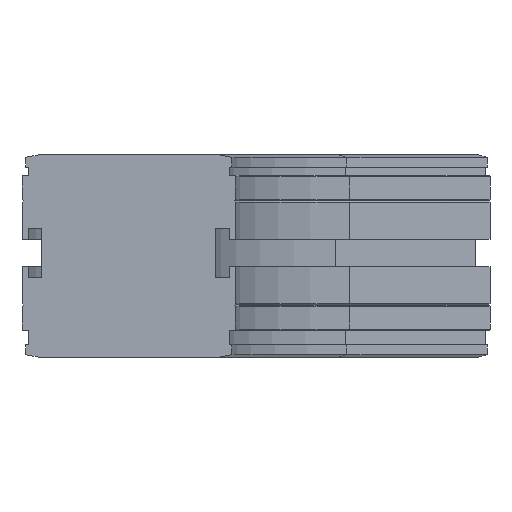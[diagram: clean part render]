
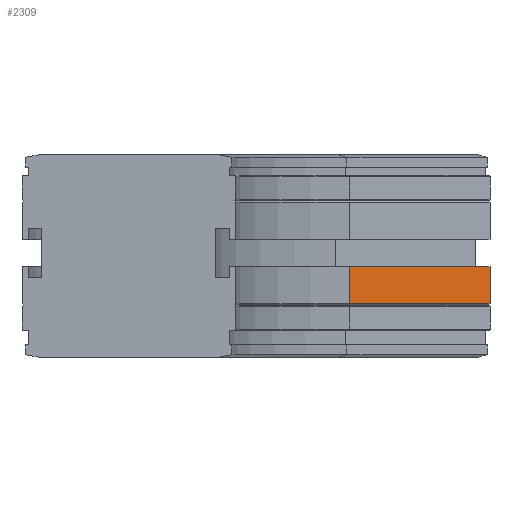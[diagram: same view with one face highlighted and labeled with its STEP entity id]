
A CAD part, left-side view. The second image highlights one B-rep face of the part: STEP entity #2309.
In plain terms, the highlighted planar face has unit normal (-0.707, -0.707, 0).
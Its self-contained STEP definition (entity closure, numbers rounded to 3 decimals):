
#2253=CARTESIAN_POINT('',(247.584,-145.553,-60.));
#2254=VERTEX_POINT('',#2253);
#2261=CARTESIAN_POINT('',(191.016,-88.984,-60.));
#2262=VERTEX_POINT('',#2261);
#2263=CARTESIAN_POINT('',(191.016,-88.984,-60.));
#2264=DIRECTION('',(0.707,-0.707,0.0));
#2265=VECTOR('',#2264,80.);
#2266=LINE('',#2263,#2265);
#2267=EDGE_CURVE('',#2262,#2254,#2266,.T.);
#2279=CARTESIAN_POINT('',(191.016,-88.984,-60.));
#2280=DIRECTION('',(-0.707,-0.707,0.));
#2281=DIRECTION('',(0.0,0.0,1.0));
#2282=AXIS2_PLACEMENT_3D('',#2279,#2280,#2281);
#2283=PLANE('',#2282);
#2284=CARTESIAN_POINT('',(247.584,-145.553,-45.));
#2285=VERTEX_POINT('',#2284);
#2286=CARTESIAN_POINT('',(247.584,-145.553,-60.));
#2287=DIRECTION('',(0.0,0.0,1.0));
#2288=VECTOR('',#2287,15.0);
#2289=LINE('',#2286,#2288);
#2290=EDGE_CURVE('',#2254,#2285,#2289,.T.);
#2291=ORIENTED_EDGE('',*,*,#2290,.T.);
#2292=CARTESIAN_POINT('',(191.016,-88.984,-45.));
#2293=VERTEX_POINT('',#2292);
#2294=CARTESIAN_POINT('',(191.016,-88.984,-45.));
#2295=DIRECTION('',(0.707,-0.707,0.0));
#2296=VECTOR('',#2295,80.);
#2297=LINE('',#2294,#2296);
#2298=EDGE_CURVE('',#2293,#2285,#2297,.T.);
#2299=ORIENTED_EDGE('',*,*,#2298,.F.);
#2300=CARTESIAN_POINT('',(191.016,-88.984,-60.));
#2301=DIRECTION('',(0.0,0.0,1.0));
#2302=VECTOR('',#2301,15.0);
#2303=LINE('',#2300,#2302);
#2304=EDGE_CURVE('',#2262,#2293,#2303,.T.);
#2305=ORIENTED_EDGE('',*,*,#2304,.F.);
#2306=ORIENTED_EDGE('',*,*,#2267,.T.);
#2307=EDGE_LOOP('',(#2291,#2299,#2305,#2306));
#2308=FACE_OUTER_BOUND('',#2307,.T.);
#2309=ADVANCED_FACE('',(#2308),#2283,.T.);
